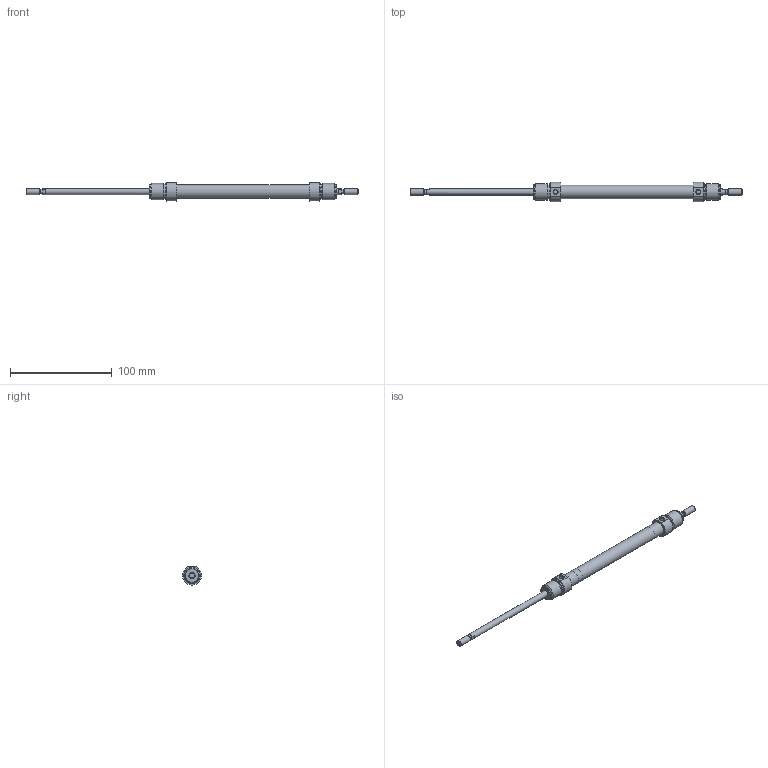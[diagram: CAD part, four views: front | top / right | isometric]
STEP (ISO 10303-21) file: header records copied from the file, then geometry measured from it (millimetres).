
FILE_DESCRIPTION( ( 'STEP AP203' ), '1' );
FILE_NAME( '//expscmdclustefs.cadenas.external/client_exchange/iodir/jobs/output/wkb68360874_no0/STEP/M101-012-0100-M__0__2_03.stp', ' ', ( ' ' ), ( ' ' ), 'PSStep 15.0.47', 'PARTsolutions', ' ' );
FILE_SCHEMA( ( 'CONFIG_CONTROL_DESIGN' ) );
Length unit declared in the file: millimetre
Products named in the file (3): M101-012-0100-M [0]; HI_M101-012-0100-M-[0]-z; HI_M101-012-0100-M-[0]-k
Assembly tree (2 placements, depth 2):
  M101-012-0100-M [0]
    HI_M101-012-0100-M-[0]-z
    HI_M101-012-0100-M-[0]-k
Bounding box: 326 x 18.73 x 17.86 mm (x, y, z)
Volume: 25373.1 mm3; surface area: 21297.9 mm2
Topology: 2 solids, 2 shells, 65 faces, 129 edges, 80 vertices
Faces by surface type: plane 26, cylinder 23, cone 14, torus 2
Full cylindrical faces by diameter (mm): 4.134 x2, 4.773 x2, 6 x6, 12 x2, 13.3 x1, 14.16 x4, 16 x4
Entity records: 1670 total; most frequent: CARTESIAN_POINT 324, DIRECTION 280, ORIENTED_EDGE 184, AXIS2_PLACEMENT_3D 128, EDGE_LOOP 116, EDGE_CURVE 92, FACE_OUTER_BOUND 88, VERTEX_POINT 76
